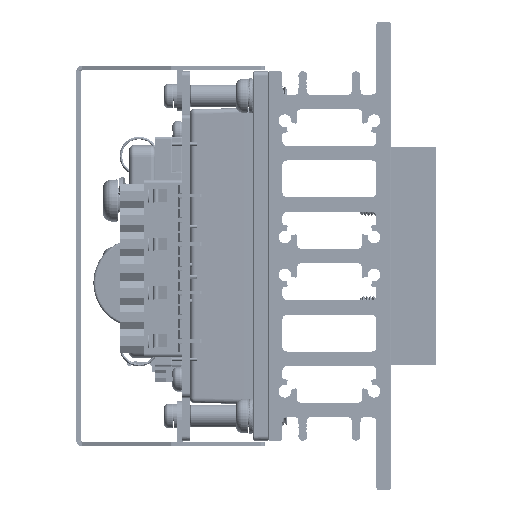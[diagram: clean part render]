
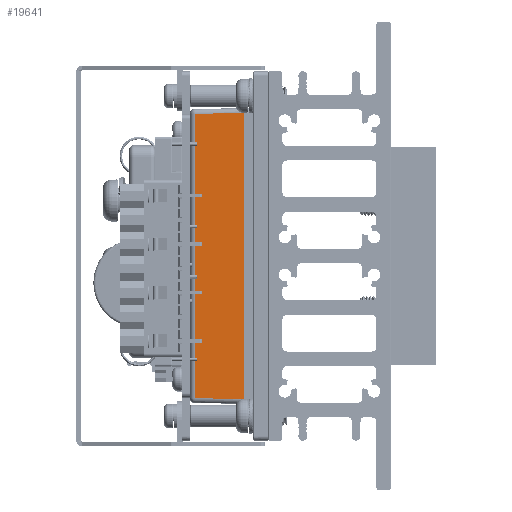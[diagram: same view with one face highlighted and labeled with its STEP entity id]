
A CAD part, left-side view. The second image highlights one B-rep face of the part: STEP entity #19641.
In plain terms, the highlighted planar face has unit normal (-1, 0.018, 0).
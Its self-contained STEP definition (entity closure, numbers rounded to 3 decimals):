
#1225 = DIRECTION ( 'NONE',  ( 0., 0., -1. ) ) ;
#2578 = DIRECTION ( 'NONE',  ( 0., 0., 1. ) ) ;
#14716 = LINE ( 'NONE', #78965, #17056 ) ;
#17056 = VECTOR ( 'NONE', #1225, 1000. ) ;
#19641 = ADVANCED_FACE ( 'NONE', ( #130134 ), #210473, .T. ) ;
#25675 = DIRECTION ( 'NONE',  ( 0.017, 1., 0. ) ) ;
#31692 = ORIENTED_EDGE ( 'NONE', *, *, #263854, .T. ) ;
#32706 = EDGE_CURVE ( 'NONE', #141590, #209293, #164644, .T. ) ;
#45167 = CARTESIAN_POINT ( 'NONE',  ( -6.294, 8., -29.5 ) ) ;
#58542 = CARTESIAN_POINT ( 'NONE',  ( -6.276, 9.047, -29.482 ) ) ;
#61214 = DIRECTION ( 'NONE',  ( -0.017, -1., -0.017 ) ) ;
#78965 = CARTESIAN_POINT ( 'NONE',  ( -6.117, 18.117, -30.306 ) ) ;
#82588 = LINE ( 'NONE', #219191, #228457 ) ;
#99030 = CARTESIAN_POINT ( 'NONE',  ( -6.294, 7.983, 29.5 ) ) ;
#107047 = DIRECTION ( 'NONE',  ( 0., 1., 0. ) ) ;
#117293 = VECTOR ( 'NONE', #61214, 1000. ) ;
#122857 = LINE ( 'NONE', #58542, #117293 ) ;
#130134 = FACE_OUTER_BOUND ( 'NONE', #178822, .T. ) ;
#136772 = EDGE_CURVE ( 'NONE', #209293, #184920, #14716, .T. ) ;
#137421 = ORIENTED_EDGE ( 'NONE', *, *, #32706, .T. ) ;
#138681 = ORIENTED_EDGE ( 'NONE', *, *, #151111, .T. ) ;
#139087 = CARTESIAN_POINT ( 'NONE',  ( -6.117, 18.117, -29.324 ) ) ;
#141590 = VERTEX_POINT ( 'NONE', #246256 ) ;
#151111 = EDGE_CURVE ( 'NONE', #184920, #159908, #122857, .T. ) ;
#159908 = VERTEX_POINT ( 'NONE', #45167 ) ;
#164644 = LINE ( 'NONE', #99030, #224415 ) ;
#167953 = ORIENTED_EDGE ( 'NONE', *, *, #136772, .T. ) ;
#178822 = EDGE_LOOP ( 'NONE', ( #203326, #31692, #137421, #167953, #138681 ) ) ;
#180408 = DIRECTION ( 'NONE',  ( 0., 0., 1. ) ) ;
#184920 = VERTEX_POINT ( 'NONE', #139087 ) ;
#189094 = DIRECTION ( 'NONE',  ( -1., 0.017, 0. ) ) ;
#191970 = CARTESIAN_POINT ( 'NONE',  ( -6.294, 8., 29.5 ) ) ;
#194336 = CARTESIAN_POINT ( 'NONE',  ( -6.294, 8., 30.5 ) ) ;
#203326 = ORIENTED_EDGE ( 'NONE', *, *, #257504, .T. ) ;
#206164 = CARTESIAN_POINT ( 'NONE',  ( -5.294, 8., 29.5 ) ) ;
#209293 = VERTEX_POINT ( 'NONE', #210343 ) ;
#210343 = CARTESIAN_POINT ( 'NONE',  ( -6.117, 18.117, 29.324 ) ) ;
#210473 = PLANE ( 'NONE',  #213034 ) ;
#213034 = AXIS2_PLACEMENT_3D ( 'NONE', #194336, #189094, #25675 ) ;
#219191 = CARTESIAN_POINT ( 'NONE',  ( -6.294, 8., 30.5 ) ) ;
#220174 = AXIS2_PLACEMENT_3D ( 'NONE', #206164, #107047, #2578 ) ;
#224415 = VECTOR ( 'NONE', #246327, 1000. ) ;
#228457 = VECTOR ( 'NONE', #180408, 1000. ) ;
#246256 = CARTESIAN_POINT ( 'NONE',  ( -6.294, 8., 29.5 ) ) ;
#246327 = DIRECTION ( 'NONE',  ( 0.017, 1., -0.017 ) ) ;
#250265 = CIRCLE ( 'NONE', #220174, 1. ) ;
#257504 = EDGE_CURVE ( 'NONE', #159908, #258876, #82588, .T. ) ;
#258876 = VERTEX_POINT ( 'NONE', #191970 ) ;
#263854 = EDGE_CURVE ( 'NONE', #258876, #141590, #250265, .T. ) ;
